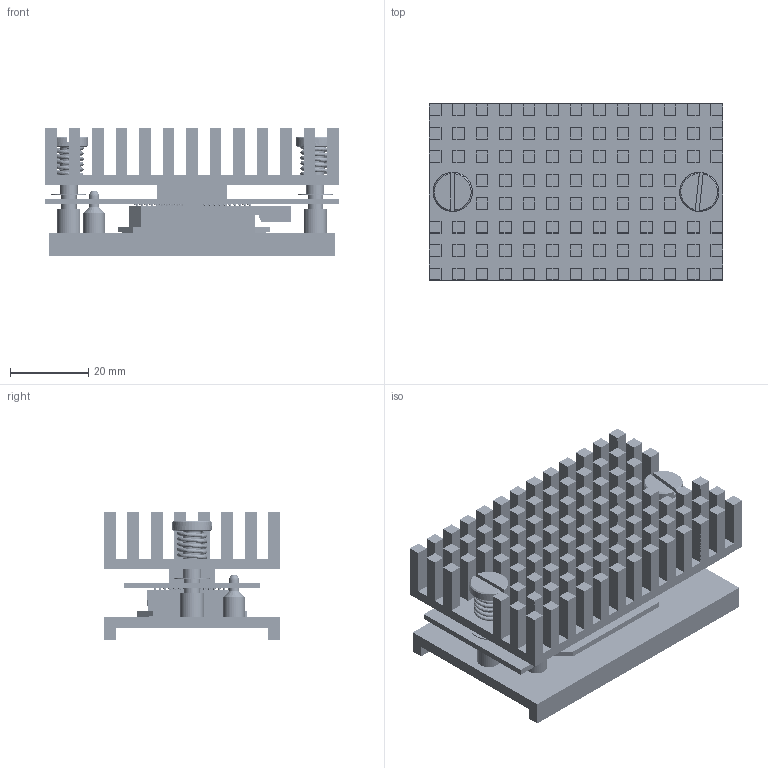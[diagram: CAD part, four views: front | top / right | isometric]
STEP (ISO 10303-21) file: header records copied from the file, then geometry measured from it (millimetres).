
FILE_DESCRIPTION (( 'STEP AP214' ), '1' );
FILE_NAME ('2519035.STEP', '2023-08-17T15:22:18', ( '' ), ( '' ), 'SwSTEP 2.0', 'SolidWorks 2021', '' );
FILE_SCHEMA (( 'AUTOMOTIVE_DESIGN' ));
Length unit declared in the file: millimetre
Products named in the file (19): LC-040D-2-S; 2509478-System-PCB; 2509475; sy-pcb-pad-4-contact-1; 2509474; 2509646; 2509477; sy-pcb-pad-assy-1; 2509650; s453-SymbolizePad; s453-47-SST-hWLP-DMD_All; 2508220; 2519035; 2509476; s453-47-SST-hWLP-Ceramic; 2509478; 2509648; 5105-15; s453-47-SST-hWLP-Window
Assembly tree (169 placements, depth 4):
  2519035
    2509475
    2509646
    2509648
    s453-47-SST-hWLP-DMD_All
      s453-47-SST-hWLP-Ceramic
      s453-47-SST-hWLP-Window
      s453-SymbolizePad
    2509474
    2509477
    2509476
    2509478
      2509478-System-PCB
      sy-pcb-pad-assy-1
        sy-pcb-pad-4-contact-1  x149
    2508220  x2
    5105-15  x2
    LC-040D-2-S  x2
    2509650
Bounding box: 75 x 45 x 32.82 mm (x, y, z)
Volume: 39769.3 mm3; surface area: 44968.7 mm2
Topology: 166 solids, 166 shells, 3530 faces, 7478 edges, 4517 vertices
Faces by surface type: cylinder 1321, plane 1271, cone 920, torus 12, bspline 4, sphere 2
Entity records: 89511 total; most frequent: DIRECTION 14884, CARTESIAN_POINT 14526, ORIENTED_EDGE 12302, EDGE_CURVE 6151, AXIS2_PLACEMENT_3D 5692, VERTEX_POINT 3838, VECTOR 3500, LINE 3500
